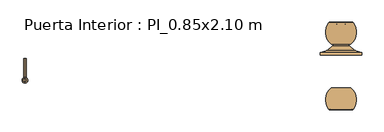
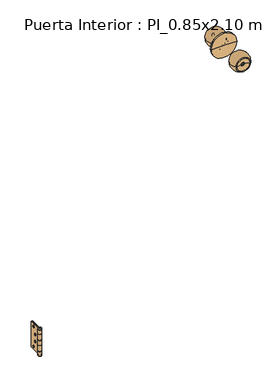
"""IFC4 building model written with IfcOpenShell, lengths in millimetres: door geometry, Puerta Interior : PI_0.85x2.10 m."""

from ifc_helpers import new_model, si_unit, point, frame, origin, place, context, project, spatial, polyline, circle_curve, ellipse_curve, trimmed, source, transform, mapped, element, save
from ifc_brep_helpers import plane_surface, cylinder_surface, revolved_surface, advanced_brep


def puerta_interior_pi_0_85x2_10_m_c76ccc0d(model_context):
    return source(origin(), model_context, "Body", "AdvancedBrep", [
        advanced_brep(
        [(-389.0, -7.5, 200.0349265), (-389.0, -51.5, 200.0349265), (-389.0, -51.5, 184.5349265), (-389.0, -51.0, 184.5349265), (-389.0, -51.0, 159.0349265), (-389.0, -51.5, 159.0349265), (-389.0, -51.5, 141.0349265), (-389.0, -51.0, 141.0349265), (-389.0, -51.0, 115.5349265), (-389.0, -51.5, 115.5349265), (-389.0, -51.5, 100.0349265), (-389.0, -7.5, 100.0349265), (-389.0, -17.5, 111.0349265), (-389.0, -25.5, 111.0349265), (-389.0, -28.5, 136.0349265), (-389.0, -36.5, 136.0349265), (-389.0, -17.5, 189.0349265), (-389.0, -25.5, 189.0349265), (-389.0, -28.5, 164.0349265), (-389.0, -36.5, 164.0349265), (-391.0, -7.5, 100.0349265), (-391.0, -53.027864, 100.0349265), (-391.0, -53.027864, 115.5349265), (-391.0, -51.0, 115.5349265), (-391.0, -51.0, 141.0349265), (-391.0, -53.027864, 141.0349265), (-391.0, -53.027864, 159.0349265), (-391.0, -51.0, 159.0349265), (-391.0, -51.0, 184.5349265), (-391.0, -53.027864, 184.5349265), (-391.0, -53.027864, 200.0349265), (-391.0, -7.5, 200.0349265), (-391.0, -25.5, 111.0349265), (-391.0, -17.5, 111.0349265), (-391.0, -36.5, 136.0349265), (-391.0, -28.5, 136.0349265), (-391.0, -25.5, 189.0349265), (-391.0, -17.5, 189.0349265), (-391.0, -36.5, 164.0349265), (-391.0, -28.5, 164.0349265), (-392.0, -51.0192593, 100.0349265), (-392.0, -53.027864, 100.0349265), (-392.0, -53.027864, 200.0349265), (-392.0, -51.0192593, 200.0349265), (-392.0, -51.0192593, 184.5349265), (-392.0, -53.027864, 184.5349265), (-392.0, -53.027864, 159.0349265), (-392.0, -51.0192593, 159.0349265), (-392.0, -51.0192593, 141.0349265), (-392.0, -53.027864, 141.0349265), (-392.0, -53.027864, 115.5349265), (-392.0, -51.0192593, 115.5349265)],
        [
            (0, 1),
            (1, 2),
            (2, 3),
            (3, 4),
            (4, 5),
            (5, 6),
            (6, 7),
            (7, 8),
            (8, 9),
            (9, 10),
            (10, 11),
            (11, 0),
            (12, 13, circle_curve(frame((-389.0, -21.5, 111.0349265), z_axis=(-1.0, 0.0, 0.0), x_axis=(0.0, 1.0, 0.0)), 4.0)),
            (13, 12, circle_curve(frame((-389.0, -21.5, 111.0349265), z_axis=(-1.0, 0.0, 0.0), x_axis=(0.0, 1.0, 0.0)), 4.0)),
            (14, 15, circle_curve(frame((-389.0, -32.5, 136.0349265), z_axis=(-1.0, 0.0, 0.0), x_axis=(0.0, 1.0, 0.0)), 4.0)),
            (15, 14, circle_curve(frame((-389.0, -32.5, 136.0349265), z_axis=(-1.0, 0.0, 0.0), x_axis=(0.0, 1.0, 0.0)), 4.0)),
            (16, 17, circle_curve(frame((-389.0, -21.5, 189.0349265), z_axis=(-1.0, 0.0, 0.0), x_axis=(0.0, 1.0, 0.0)), 4.0)),
            (17, 16, circle_curve(frame((-389.0, -21.5, 189.0349265), z_axis=(-1.0, 0.0, 0.0), x_axis=(0.0, 1.0, 0.0)), 4.0)),
            (18, 19, circle_curve(frame((-389.0, -32.5, 164.0349265), z_axis=(-1.0, 0.0, 0.0), x_axis=(0.0, 1.0, 0.0)), 4.0)),
            (19, 18, circle_curve(frame((-389.0, -32.5, 164.0349265), z_axis=(-1.0, 0.0, 0.0), x_axis=(0.0, 1.0, 0.0)), 4.0)),
            (20, 21),
            (21, 22),
            (22, 23),
            (23, 24),
            (24, 25),
            (25, 26),
            (26, 27),
            (27, 28),
            (28, 29),
            (29, 30),
            (30, 31),
            (31, 20),
            (32, 33, circle_curve(frame((-391.0, -21.5, 111.0349265), z_axis=(1.0, 0.0, 0.0), x_axis=(0.0, 1.0, 0.0)), 4.0)),
            (33, 32, circle_curve(frame((-391.0, -21.5, 111.0349265), z_axis=(1.0, 0.0, 0.0), x_axis=(0.0, 1.0, 0.0)), 4.0)),
            (34, 35, circle_curve(frame((-391.0, -32.5, 136.0349265), z_axis=(1.0, 0.0, 0.0), x_axis=(0.0, 1.0, 0.0)), 4.0)),
            (35, 34, circle_curve(frame((-391.0, -32.5, 136.0349265), z_axis=(1.0, 0.0, 0.0), x_axis=(0.0, 1.0, 0.0)), 4.0)),
            (36, 37, circle_curve(frame((-391.0, -21.5, 189.0349265), z_axis=(1.0, 0.0, 0.0), x_axis=(0.0, 1.0, 0.0)), 4.0)),
            (37, 36, circle_curve(frame((-391.0, -21.5, 189.0349265), z_axis=(1.0, 0.0, 0.0), x_axis=(0.0, 1.0, 0.0)), 4.0)),
            (38, 39, circle_curve(frame((-391.0, -32.5, 164.0349265), z_axis=(1.0, 0.0, 0.0), x_axis=(0.0, 1.0, 0.0)), 4.0)),
            (39, 38, circle_curve(frame((-391.0, -32.5, 164.0349265), z_axis=(1.0, 0.0, 0.0), x_axis=(0.0, 1.0, 0.0)), 4.0)),
            (10, 40, circle_curve(frame((-391.5, -57.5, 100.0349265), z_axis=(0.0, 0.0, -1.0), x_axis=(0.0, -1.0, 0.0)), 6.5)),
            (40, 41),
            (41, 21, circle_curve(frame((-391.5, -57.5, 100.0349265), z_axis=(0.0, 0.0, 1.0), x_axis=(0.0, -1.0, 0.0)), 4.5)),
            (20, 11),
            (31, 0),
            (30, 42, circle_curve(frame((-391.5, -57.5, 200.0349265), z_axis=(0.0, 0.0, -1.0), x_axis=(0.0, -1.0, 0.0)), 4.5)),
            (42, 43),
            (43, 1, circle_curve(frame((-391.5, -57.5, 200.0349265), z_axis=(0.0, 0.0, 1.0), x_axis=(0.0, -1.0, 0.0)), 6.5)),
            (27, 4),
            (3, 28),
            (23, 8),
            (7, 24),
            (2, 44, circle_curve(frame((-391.5, -57.5, 184.5349265), z_axis=(0.0, 0.0, -1.0), x_axis=(0.0, -1.0, 0.0)), 6.5)),
            (44, 45),
            (45, 29, circle_curve(frame((-391.5, -57.5, 184.5349265), z_axis=(0.0, 0.0, 1.0), x_axis=(0.0, -1.0, 0.0)), 4.5)),
            (43, 44),
            (42, 45),
            (26, 46, circle_curve(frame((-391.5, -57.5, 159.0349265), z_axis=(0.0, 0.0, -1.0), x_axis=(0.0, -1.0, 0.0)), 4.5)),
            (46, 47),
            (47, 5, circle_curve(frame((-391.5, -57.5, 159.0349265), z_axis=(0.0, 0.0, 1.0), x_axis=(0.0, -1.0, 0.0)), 6.5)),
            (6, 48, circle_curve(frame((-391.5, -57.5, 141.0349265), z_axis=(0.0, 0.0, -1.0), x_axis=(0.0, -1.0, 0.0)), 6.5)),
            (48, 49),
            (49, 25, circle_curve(frame((-391.5, -57.5, 141.0349265), z_axis=(0.0, 0.0, 1.0), x_axis=(0.0, -1.0, 0.0)), 4.5)),
            (47, 48),
            (46, 49),
            (22, 50, circle_curve(frame((-391.5, -57.5, 115.5349265), z_axis=(0.0, 0.0, -1.0), x_axis=(0.0, -1.0, 0.0)), 4.5)),
            (50, 51),
            (51, 9, circle_curve(frame((-391.5, -57.5, 115.5349265), z_axis=(0.0, 0.0, 1.0), x_axis=(0.0, -1.0, 0.0)), 6.5)),
            (51, 40),
            (50, 41),
            (33, 12),
            (13, 32),
            (35, 14),
            (15, 34),
            (37, 16),
            (17, 36),
            (39, 18),
            (19, 38),
        ],
        [
            plane_surface(frame((-389.0, -51.0, 100.0349265), z_axis=(1.0, 0.0, 0.0), x_axis=(0.0, 0.0, 1.0))),
            plane_surface(frame((-391.0, -51.0, 100.0349265), z_axis=(-1.0, 0.0, 0.0), x_axis=(0.0, 0.0, -1.0))),
            plane_surface(frame((-389.0, -7.5, 100.0349265), z_axis=(0.0, 0.0, -1.0), x_axis=(-1.0, 0.0, 0.0))),
            plane_surface(frame((-389.0, -7.5, 200.0349265), z_axis=(0.0, 1.0, 0.0), x_axis=(-1.0, 0.0, 0.0))),
            plane_surface(frame((-389.0, -51.0, 200.0349265), z_axis=(0.0, 0.0, 1.0), x_axis=(-1.0, 0.0, 0.0))),
            plane_surface(frame((-389.0, -51.0, 100.0349265), z_axis=(0.0, -1.0, 0.0), x_axis=(-1.0, 0.0, 0.0))),
            plane_surface(frame((-391.0, -51.0, 184.5349265), z_axis=(0.0, 0.0, -1.0), x_axis=(0.0, -1.0, 0.0))),
            cylinder_surface(frame((-391.5, -57.5, 184.5349265), z_axis=(0.0, 0.0, 1.0), x_axis=(0.0, -1.0, 0.0)), 6.5),
            plane_surface(frame((-392.0, -51.0192593, 200.0349265), z_axis=(1.0, 0.0, 0.0), x_axis=(0.0, 0.0, -1.0))),
            revolved_surface(polyline([(-391.5, -62.0, 184.5349265), (-391.5, -62.0, 200.0349265)]), (-391.5, -57.5, 184.5349265), (0.0, 0.0, -1.0)),
            plane_surface(frame((-391.0, -51.0, 159.0349265), z_axis=(0.0, 0.0, 1.0), x_axis=(0.0, 1.0, 0.0))),
            plane_surface(frame((-391.0, -51.0, 141.0349265), z_axis=(0.0, 0.0, -1.0), x_axis=(0.0, -1.0, 0.0))),
            cylinder_surface(frame((-391.5, -57.5, 141.0349265), z_axis=(0.0, 0.0, 1.0), x_axis=(0.0, -1.0, 0.0)), 6.5),
            plane_surface(frame((-392.0, -51.0192593, 159.0349265), z_axis=(1.0, 0.0, 0.0), x_axis=(0.0, 0.0, -1.0))),
            revolved_surface(polyline([(-391.5, -62.0, 141.0349265), (-391.5, -62.0, 159.0349265)]), (-391.5, -57.5, 141.0349265), (0.0, 0.0, -1.0)),
            plane_surface(frame((-391.0, -51.0, 115.5349265), z_axis=(0.0, 0.0, 1.0), x_axis=(0.0, 1.0, 0.0))),
            cylinder_surface(frame((-391.5, -57.5, 100.0349265), z_axis=(0.0, 0.0, 1.0), x_axis=(0.0, -1.0, 0.0)), 6.5),
            plane_surface(frame((-392.0, -51.0192593, 115.5349265), z_axis=(1.0, 0.0, 0.0), x_axis=(0.0, 0.0, -1.0))),
            revolved_surface(polyline([(-391.5, -62.0, 100.0349265), (-391.5, -62.0, 115.5349265)]), (-391.5, -57.5, 100.0349265), (0.0, 0.0, -1.0)),
            revolved_surface(polyline([(-389.0, -17.5, 111.0349265), (-391.0, -17.5, 111.0349265)]), (-394.0, -21.5, 111.0349265), (1.0, 0.0, 0.0)),
            revolved_surface(polyline([(-389.0, -28.5, 136.0349265), (-391.0, -28.5, 136.0349265)]), (-392.0, -32.5, 136.0349265), (1.0, 0.0, 0.0)),
            revolved_surface(polyline([(-389.0, -17.5, 189.0349265), (-391.0, -17.5, 189.0349265)]), (-392.0, -21.5, 189.0349265), (1.0, 0.0, 0.0)),
            revolved_surface(polyline([(-389.0, -28.5, 164.0349265), (-391.0, -28.5, 164.0349265)]), (-392.0, -32.5, 164.0349265), (1.0, 0.0, 0.0)),
        ],
        [
            (0, [[1, 2, 3, 4, 5, 6, 7, 8, 9, 10, 11, 12], [13, 14], [15, 16], [17, 18], [19, 20]]),
            (1, [[21, 22, 23, 24, 25, 26, 27, 28, 29, 30, 31, 32], [33, 34], [35, 36], [37, 38], [39, 40]]),
            (2, [[-11, 41, 42, 43, -21, 44]]),
            (3, [[-44, -32, 45, -12]]),
            (4, [[-31, 46, 47, 48, -1, -45]]),
            (5, [[-28, 49, -4, 50]]),
            (5, [[-24, 51, -8, 52]]),
            (6, [[-29, -50, -3, 53, 54, 55]]),
            (7, [[56, -53, -2, -48]]),
            (8, [[57, -54, -56, -47]]),
            (9, [[-30, -55, -57, -46]]),
            (10, [[-5, -49, -27, 58, 59, 60]]),
            (11, [[-25, -52, -7, 61, 62, 63]]),
            (12, [[64, -61, -6, -60]]),
            (13, [[65, -62, -64, -59]]),
            (14, [[-26, -63, -65, -58]]),
            (15, [[-9, -51, -23, 66, 67, 68]]),
            (16, [[69, -41, -10, -68]]),
            (17, [[70, -42, -69, -67]]),
            (18, [[-22, -43, -70, -66]]),
            (19, [[-34, 71, -14, 72]]),
            (19, [[-13, -71, -33, -72]]),
            (20, [[-36, 73, -16, 74]]),
            (20, [[-15, -73, -35, -74]]),
            (21, [[-38, 75, -18, 76]]),
            (21, [[-17, -75, -37, -76]]),
            (22, [[-40, 77, -20, 78]]),
            (22, [[-19, -77, -39, -78]]),
        ],
    ),
        advanced_brep(
        [(-391.5, -53.0, 204.0349265), (-391.5, -53.0, 200.5349265), (-391.5, -61.9442719, 200.5349265), (-391.5, -61.9442719, 204.0349265), (-391.5, -57.472136, 204.0349265), (-391.5, -53.0, 96.0349265), (-391.5, -57.472136, 96.0349265), (-391.5, -61.9442719, 96.0349265), (-391.5, -53.0, 99.5349265), (-391.5, -61.9442719, 99.5349265)],
        [
            (0, 1, circle_curve(frame((-391.5, -53.0, 202.2849265), z_axis=(-1.0, 0.0, 0.0), x_axis=(0.0, -1.0, 0.0)), 1.75)),
            (1, 2, circle_curve(frame((-391.5, -57.472136, 200.5349265), z_axis=(0.0, 0.0, 1.0), x_axis=(0.0, -1.0, 0.0)), 4.472136)),
            (2, 3, circle_curve(frame((-391.5, -61.9442719, 202.2849265), z_axis=(-1.0, 0.0, 0.0), x_axis=(0.0, 1.0, 0.0)), 1.75)),
            (3, 0, circle_curve(frame((-391.5, -57.472136, 204.0349265), z_axis=(0.0, 0.0, -1.0), x_axis=(0.0, -1.0, 0.0)), 4.472136)),
            (2, 1, circle_curve(frame((-391.5, -57.472136, 200.5349265), z_axis=(0.0, 0.0, 1.0), x_axis=(0.0, -1.0, 0.0)), 4.472136)),
            (0, 3, circle_curve(frame((-391.5, -57.472136, 204.0349265), z_axis=(0.0, 0.0, -1.0), x_axis=(0.0, -1.0, 0.0)), 4.472136)),
            (4, 0),
            (3, 4),
            (5, 6),
            (6, 7),
            (7, 5, circle_curve(frame((-391.5, -57.472136, 96.0349265), z_axis=(0.0, 0.0, -1.0), x_axis=(0.0, -1.0, 0.0)), 4.472136)),
            (5, 7, circle_curve(frame((-391.5, -57.472136, 96.0349265), z_axis=(0.0, 0.0, -1.0), x_axis=(0.0, -1.0, 0.0)), 4.472136)),
            (8, 5, circle_curve(frame((-391.5, -53.0, 97.7849265), z_axis=(-1.0, 0.0, 0.0), x_axis=(0.0, -1.0, 0.0)), 1.75)),
            (7, 9, circle_curve(frame((-391.5, -61.9442719, 97.7849265), z_axis=(-1.0, 0.0, 0.0), x_axis=(0.0, 1.0, 0.0)), 1.75)),
            (9, 8, circle_curve(frame((-391.5, -57.472136, 99.5349265), z_axis=(0.0, 0.0, -1.0), x_axis=(0.0, -1.0, 0.0)), 4.472136)),
            (8, 9, circle_curve(frame((-391.5, -57.472136, 99.5349265), z_axis=(0.0, 0.0, -1.0), x_axis=(0.0, -1.0, 0.0)), 4.472136)),
            (1, 8),
            (9, 2),
        ],
        [
            revolved_surface(trimmed(ellipse_curve(frame((-391.5, -61.9442719, 202.2849265), z_axis=(-1.0, 0.0, 0.0), x_axis=(0.0, 1.0, 0.0)), 1.75, 1.75), [point((-391.5, -61.9442719, 200.5349265))], [point((-391.5, -61.9442719, 204.0349265))], True, "CARTESIAN"), (-391.5, -57.472136, 204.0349265), (0.0, 0.0, 1.0)),
            plane_surface(frame((-391.5, -57.472136, 204.0349265), z_axis=(0.0, 0.0, 1.0), x_axis=(0.0, -1.0, 0.0))),
            plane_surface(frame((-391.5, -57.472136, 96.0349265), z_axis=(0.0, 0.0, -1.0), x_axis=(0.0, -1.0, 0.0))),
            revolved_surface(trimmed(ellipse_curve(frame((-391.5, -61.9442719, 97.7849265), z_axis=(-1.0, 0.0, 0.0), x_axis=(0.0, 1.0, 0.0)), 1.75, 1.75), [point((-391.5, -61.9442719, 96.0349265))], [point((-391.5, -61.9442719, 99.5349265))], True, "CARTESIAN"), (-391.5, -57.472136, 204.0349265), (0.0, 0.0, 1.0)),
            cylinder_surface(frame((-391.5, -57.472136, 204.0349265), z_axis=(0.0, 0.0, 1.0), x_axis=(0.0, -1.0, 0.0)), 4.472136),
        ],
        [
            (0, [[1, 2, 3, 4]]),
            (0, [[-3, 5, -1, 6]]),
            (1, [[7, -4, 8]]),
            (1, [[-8, -6, -7]]),
            (2, [[9, 10, 11]]),
            (2, [[-10, -9, 12]]),
            (3, [[13, -11, 14, 15]]),
            (3, [[-14, -12, -13, 16]]),
            (4, [[17, -15, 18, -2]]),
            (4, [[-18, -16, -17, -5]]),
        ],
    ),
        advanced_brep(
        [(-392.0, -51.0, 200.0349265), (-392.0, -51.0, 183.5349265), (-392.0, -53.027864, 183.5349265), (-392.0, -53.027864, 160.0349265), (-392.0, -51.0, 160.0349265), (-392.0, -51.0, 140.0349265), (-392.0, -53.027864, 140.0349265), (-392.0, -53.027864, 116.5349265), (-392.0, -51.0, 116.5349265), (-392.0, -51.0, 100.0349265), (-392.0, -7.5, 100.0349265), (-392.0, -7.5, 200.0349265), (-392.0, -17.5, 111.0349265), (-392.0, -25.5, 111.0349265), (-392.0, -28.5, 136.0349265), (-392.0, -36.5, 136.0349265), (-392.0, -17.5, 189.0349265), (-392.0, -25.5, 189.0349265), (-392.0, -28.5, 164.0349265), (-392.0, -36.5, 164.0349265), (-394.0, -51.0, 100.0349265), (-394.0, -51.0, 116.5349265), (-394.0, -51.5, 116.5349265), (-394.0, -51.5, 140.0349265), (-394.0, -51.0, 140.0349265), (-394.0, -51.0, 160.0349265), (-394.0, -51.5, 160.0349265), (-394.0, -51.5, 183.5349265), (-394.0, -51.0, 183.5349265), (-394.0, -51.0, 200.0349265), (-394.0, -7.5, 200.0349265), (-394.0, -7.5, 100.0349265), (-394.0, -25.5, 111.0349265), (-394.0, -17.5, 111.0349265), (-394.0, -36.5, 136.0349265), (-394.0, -28.5, 136.0349265), (-394.0, -25.5, 189.0349265), (-394.0, -17.5, 189.0349265), (-394.0, -36.5, 164.0349265), (-394.0, -28.5, 164.0349265), (-391.0, -51.0192593, 183.5349265), (-391.0, -53.027864, 183.5349265), (-391.0, -53.027864, 160.0349265), (-391.0, -51.0192593, 160.0349265), (-391.0, -51.0192593, 140.0349265), (-391.0, -53.027864, 140.0349265), (-391.0, -53.027864, 116.5349265), (-391.0, -51.0192593, 116.5349265)],
        [
            (0, 1),
            (1, 2),
            (2, 3),
            (3, 4),
            (4, 5),
            (5, 6),
            (6, 7),
            (7, 8),
            (8, 9),
            (9, 10),
            (10, 11),
            (11, 0),
            (12, 13, circle_curve(frame((-392.0, -21.5, 111.0349265), z_axis=(-1.0, 0.0, 0.0), x_axis=(0.0, 1.0, 0.0)), 4.0)),
            (13, 12, circle_curve(frame((-392.0, -21.5, 111.0349265), z_axis=(-1.0, 0.0, 0.0), x_axis=(0.0, 1.0, 0.0)), 4.0)),
            (14, 15, circle_curve(frame((-392.0, -32.5, 136.0349265), z_axis=(-1.0, 0.0, 0.0), x_axis=(0.0, 1.0, 0.0)), 4.0)),
            (15, 14, circle_curve(frame((-392.0, -32.5, 136.0349265), z_axis=(-1.0, 0.0, 0.0), x_axis=(0.0, 1.0, 0.0)), 4.0)),
            (16, 17, circle_curve(frame((-392.0, -21.5, 189.0349265), z_axis=(-1.0, 0.0, 0.0), x_axis=(0.0, 1.0, 0.0)), 4.0)),
            (17, 16, circle_curve(frame((-392.0, -21.5, 189.0349265), z_axis=(-1.0, 0.0, 0.0), x_axis=(0.0, 1.0, 0.0)), 4.0)),
            (18, 19, circle_curve(frame((-392.0, -32.5, 164.0349265), z_axis=(-1.0, 0.0, 0.0), x_axis=(0.0, 1.0, 0.0)), 4.0)),
            (19, 18, circle_curve(frame((-392.0, -32.5, 164.0349265), z_axis=(-1.0, 0.0, 0.0), x_axis=(0.0, 1.0, 0.0)), 4.0)),
            (20, 21),
            (21, 22),
            (22, 23),
            (23, 24),
            (24, 25),
            (25, 26),
            (26, 27),
            (27, 28),
            (28, 29),
            (29, 30),
            (30, 31),
            (31, 20),
            (32, 33, circle_curve(frame((-394.0, -21.5, 111.0349265), z_axis=(1.0, 0.0, 0.0), x_axis=(0.0, 1.0, 0.0)), 4.0)),
            (33, 32, circle_curve(frame((-394.0, -21.5, 111.0349265), z_axis=(1.0, 0.0, 0.0), x_axis=(0.0, 1.0, 0.0)), 4.0)),
            (34, 35, circle_curve(frame((-394.0, -32.5, 136.0349265), z_axis=(1.0, 0.0, 0.0), x_axis=(0.0, 1.0, 0.0)), 4.0)),
            (35, 34, circle_curve(frame((-394.0, -32.5, 136.0349265), z_axis=(1.0, 0.0, 0.0), x_axis=(0.0, 1.0, 0.0)), 4.0)),
            (36, 37, circle_curve(frame((-394.0, -21.5, 189.0349265), z_axis=(1.0, 0.0, 0.0), x_axis=(0.0, 1.0, 0.0)), 4.0)),
            (37, 36, circle_curve(frame((-394.0, -21.5, 189.0349265), z_axis=(1.0, 0.0, 0.0), x_axis=(0.0, 1.0, 0.0)), 4.0)),
            (38, 39, circle_curve(frame((-394.0, -32.5, 164.0349265), z_axis=(1.0, 0.0, 0.0), x_axis=(0.0, 1.0, 0.0)), 4.0)),
            (39, 38, circle_curve(frame((-394.0, -32.5, 164.0349265), z_axis=(1.0, 0.0, 0.0), x_axis=(0.0, 1.0, 0.0)), 4.0)),
            (9, 20),
            (31, 10),
            (30, 11),
            (29, 0),
            (8, 21),
            (28, 1),
            (24, 5),
            (4, 25),
            (27, 40, circle_curve(frame((-391.5, -57.5, 183.5349265), z_axis=(0.0, 0.0, 1.0), x_axis=(0.0, -1.0, 0.0)), 6.5)),
            (40, 41),
            (41, 2, circle_curve(frame((-391.5, -57.5, 183.5349265), z_axis=(0.0, 0.0, -1.0), x_axis=(0.0, -1.0, 0.0)), 4.5)),
            (3, 42, circle_curve(frame((-391.5, -57.5, 160.0349265), z_axis=(0.0, 0.0, 1.0), x_axis=(0.0, -1.0, 0.0)), 4.5)),
            (42, 43),
            (43, 26, circle_curve(frame((-391.5, -57.5, 160.0349265), z_axis=(0.0, 0.0, -1.0), x_axis=(0.0, -1.0, 0.0)), 6.5)),
            (43, 40),
            (42, 41),
            (23, 44, circle_curve(frame((-391.5, -57.5, 140.0349265), z_axis=(0.0, 0.0, 1.0), x_axis=(0.0, -1.0, 0.0)), 6.5)),
            (44, 45),
            (45, 6, circle_curve(frame((-391.5, -57.5, 140.0349265), z_axis=(0.0, 0.0, -1.0), x_axis=(0.0, -1.0, 0.0)), 4.5)),
            (7, 46, circle_curve(frame((-391.5, -57.5, 116.5349265), z_axis=(0.0, 0.0, 1.0), x_axis=(0.0, -1.0, 0.0)), 4.5)),
            (46, 47),
            (47, 22, circle_curve(frame((-391.5, -57.5, 116.5349265), z_axis=(0.0, 0.0, -1.0), x_axis=(0.0, -1.0, 0.0)), 6.5)),
            (47, 44),
            (46, 45),
            (33, 12),
            (13, 32),
            (35, 14),
            (15, 34),
            (37, 16),
            (17, 36),
            (39, 18),
            (19, 38),
        ],
        [
            plane_surface(frame((-392.0, -51.0, 100.0349265), z_axis=(1.0, 0.0, 0.0), x_axis=(0.0, 0.0, 1.0))),
            plane_surface(frame((-394.0, -51.0, 100.0349265), z_axis=(-1.0, 0.0, 0.0), x_axis=(0.0, 0.0, -1.0))),
            plane_surface(frame((-392.0, -7.5, 100.0349265), z_axis=(0.0, 0.0, -1.0), x_axis=(-1.0, 0.0, 0.0))),
            plane_surface(frame((-392.0, -7.5, 200.0349265), z_axis=(0.0, 1.0, 0.0), x_axis=(-1.0, 0.0, 0.0))),
            plane_surface(frame((-392.0, -51.0, 200.0349265), z_axis=(0.0, 0.0, 1.0), x_axis=(-1.0, 0.0, 0.0))),
            plane_surface(frame((-392.0, -51.0, 100.0349265), z_axis=(0.0, -1.0, 0.0), x_axis=(-1.0, 0.0, 0.0))),
            plane_surface(frame((-391.5, -62.0, 183.5349265), z_axis=(0.0, 0.0, 1.0), x_axis=(1.0, 0.0, 0.0))),
            plane_surface(frame((-391.5, -62.0, 160.0349265), z_axis=(0.0, 0.0, -1.0), x_axis=(-1.0, 0.0, 0.0))),
            cylinder_surface(frame((-391.5, -57.5, 160.0349265), z_axis=(0.0, 0.0, 1.0), x_axis=(0.0, -1.0, 0.0)), 6.5),
            plane_surface(frame((-391.0, -53.027864, 183.5349265), z_axis=(-1.0, 0.0, 0.0), x_axis=(0.0, 0.0, -1.0))),
            revolved_surface(polyline([(-391.5, -62.0, 160.0349265), (-391.5, -62.0, 183.5349265)]), (-391.5, -57.5, 160.0349265), (0.0, 0.0, -1.0)),
            plane_surface(frame((-391.5, -62.0, 140.0349265), z_axis=(0.0, 0.0, 1.0), x_axis=(1.0, 0.0, 0.0))),
            plane_surface(frame((-391.5, -62.0, 116.5349265), z_axis=(0.0, 0.0, -1.0), x_axis=(-1.0, 0.0, 0.0))),
            cylinder_surface(frame((-391.5, -57.5, 116.5349265), z_axis=(0.0, 0.0, 1.0), x_axis=(0.0, -1.0, 0.0)), 6.5),
            plane_surface(frame((-391.0, -53.027864, 140.0349265), z_axis=(-1.0, 0.0, 0.0), x_axis=(0.0, 0.0, -1.0))),
            revolved_surface(polyline([(-391.5, -62.0, 116.5349265), (-391.5, -62.0, 140.0349265)]), (-391.5, -57.5, 116.5349265), (0.0, 0.0, -1.0)),
            revolved_surface(polyline([(-392.0, -17.5, 111.0349265), (-394.0, -17.5, 111.0349265)]), (-394.0, -21.5, 111.0349265), (1.0, 0.0, 0.0)),
            revolved_surface(polyline([(-392.0, -28.5, 136.0349265), (-394.0, -28.5, 136.0349265)]), (-392.0, -32.5, 136.0349265), (1.0, 0.0, 0.0)),
            revolved_surface(polyline([(-392.0, -17.5, 189.0349265), (-394.0, -17.5, 189.0349265)]), (-392.0, -21.5, 189.0349265), (1.0, 0.0, 0.0)),
            revolved_surface(polyline([(-392.0, -28.5, 164.0349265), (-394.0, -28.5, 164.0349265)]), (-392.0, -32.5, 164.0349265), (1.0, 0.0, 0.0)),
        ],
        [
            (0, [[1, 2, 3, 4, 5, 6, 7, 8, 9, 10, 11, 12], [13, 14], [15, 16], [17, 18], [19, 20]]),
            (1, [[21, 22, 23, 24, 25, 26, 27, 28, 29, 30, 31, 32], [33, 34], [35, 36], [37, 38], [39, 40]]),
            (2, [[41, -32, 42, -10]]),
            (3, [[-42, -31, 43, -11]]),
            (4, [[-43, -30, 44, -12]]),
            (5, [[-9, 45, -21, -41]]),
            (5, [[-29, 46, -1, -44]]),
            (5, [[-25, 47, -5, 48]]),
            (6, [[-2, -46, -28, 49, 50, 51]]),
            (7, [[-26, -48, -4, 52, 53, 54]]),
            (8, [[-27, -54, 55, -49]]),
            (9, [[-55, -53, 56, -50]]),
            (10, [[-56, -52, -3, -51]]),
            (11, [[-6, -47, -24, 57, 58, 59]]),
            (12, [[-22, -45, -8, 60, 61, 62]]),
            (13, [[-23, -62, 63, -57]]),
            (14, [[-63, -61, 64, -58]]),
            (15, [[-64, -60, -7, -59]]),
            (16, [[-34, 65, -14, 66]]),
            (16, [[-13, -65, -33, -66]]),
            (17, [[-36, 67, -16, 68]]),
            (17, [[-15, -67, -35, -68]]),
            (18, [[-38, 69, -18, 70]]),
            (18, [[-17, -69, -37, -70]]),
            (19, [[-40, 71, -20, 72]]),
            (19, [[-19, -71, -39, -72]]),
        ],
    ),
        advanced_brep(
        [(348.5312643, 74.946362, 1025.0174632), (331.48125, 70.0573491, 1025.0174632), (319.08125, 70.0573491, 1025.0174632), (302.0312357, 74.946362, 1025.0174632), (331.48125, 66.5726145, 1025.0174632), (319.08125, 66.5726145, 1025.0174632), (325.28125, 66.5726145, 1025.0174632), (302.840796, 25.0, 1025.0174632), (324.28125, 25.0, 1025.0174632), (325.28125, 25.0, 1025.0174632), (325.28125, 25.0, 1029.2407976), (326.28125, 25.0, 1029.2407976), (326.28125, 25.0, 1025.0174632), (347.721704, 25.0, 1025.0174632), (326.28125, 25.0, 1020.937297), (324.28125, 25.0, 1020.937297), (324.28125, 25.0, 1022.5683489), (325.28125, 25.0, 1022.5683489), (325.28125, 25.0, 1023.7959278), (324.28125, 25.0, 1023.7959278), (352.7045262, 73.6071088, 1025.0174632), (297.8579738, 73.6071088, 1025.0174632), (326.28125, 33.4273855, 1020.937297), (326.28125, 33.4273855, 1029.2407976), (325.28125, 33.4273855, 1029.2407976), (325.28125, 33.4273855, 1025.0174632), (324.28125, 33.4273855, 1025.0174632), (324.28125, 33.4273855, 1023.7959278), (325.28125, 33.4273855, 1023.7959278), (325.28125, 33.4273855, 1022.5683489), (324.28125, 33.4273855, 1022.5683489), (324.28125, 33.4273855, 1020.937297)],
        [
            (0, 1),
            (1, 2, circle_curve(frame((325.28125, 70.0573491, 1025.0174632), z_axis=(0.0, -1.0, 0.0), x_axis=(-1.0, 0.0, 0.0)), 6.2)),
            (2, 3),
            (3, 0, circle_curve(frame((325.28125, 74.946362, 1025.0174632), z_axis=(0.0, 1.0, 0.0), x_axis=(-1.0, 0.0, 0.0)), 23.2500143)),
            (2, 1, circle_curve(frame((325.28125, 70.0573491, 1025.0174632), z_axis=(0.0, -1.0, 0.0), x_axis=(-1.0, 0.0, 0.0)), 6.2)),
            (0, 3, circle_curve(frame((325.28125, 74.946362, 1025.0174632), z_axis=(0.0, 1.0, 0.0), x_axis=(-1.0, 0.0, 0.0)), 23.2500143)),
            (1, 4),
            (4, 5, circle_curve(frame((325.28125, 66.5726145, 1025.0174632), z_axis=(0.0, -1.0, 0.0), x_axis=(-1.0, 0.0, 0.0)), 6.2)),
            (5, 2),
            (5, 4, circle_curve(frame((325.28125, 66.5726145, 1025.0174632), z_axis=(0.0, -1.0, 0.0), x_axis=(-1.0, 0.0, 0.0)), 6.2)),
            (4, 6),
            (6, 5),
            (7, 8),
            (8, 9),
            (9, 10),
            (10, 11),
            (11, 12),
            (12, 13),
            (13, 7, circle_curve(frame((325.28125, 25.0, 1025.0174632), z_axis=(0.0, -1.0, 0.0), x_axis=(-1.0, 0.0, 0.0)), 22.440454)),
            (12, 14),
            (14, 15),
            (15, 16),
            (16, 17),
            (17, 18),
            (18, 19),
            (19, 8),
            (7, 13, circle_curve(frame((325.28125, 25.0, 1025.0174632), z_axis=(0.0, -1.0, 0.0), x_axis=(-1.0, 0.0, 0.0)), 22.440454)),
            (13, 20, circle_curve(frame((325.28125, 51.859375, 1025.0174632), z_axis=(0.0, 0.0, 1.0), x_axis=(-1.0, 0.0, 0.0)), 35.0)),
            (20, 21, circle_curve(frame((325.28125, 73.6071088, 1025.0174632), z_axis=(0.0, -1.0, 0.0), x_axis=(-1.0, 0.0, 0.0)), 27.4232762)),
            (21, 7, circle_curve(frame((325.28125, 51.859375, 1025.0174632), z_axis=(0.0, 0.0, 1.0), x_axis=(1.0, 0.0, 0.0)), 35.0)),
            (21, 20, circle_curve(frame((325.28125, 73.6071088, 1025.0174632), z_axis=(0.0, -1.0, 0.0), x_axis=(-1.0, 0.0, 0.0)), 27.4232762)),
            (3, 21, circle_curve(frame((300.9451794, 71.1588336, 1025.0174632), z_axis=(0.0, 0.0, 1.0), x_axis=(1.0, 0.0, 0.0)), 3.9401636)),
            (20, 0, circle_curve(frame((349.6173206, 71.1588336, 1025.0174632), z_axis=(0.0, 0.0, 1.0), x_axis=(-1.0, 0.0, 0.0)), 3.9401636)),
            (22, 23),
            (23, 24),
            (24, 25),
            (25, 26),
            (26, 27),
            (27, 28),
            (28, 29),
            (29, 30),
            (30, 31),
            (31, 22),
            (31, 15),
            (14, 22),
            (30, 16),
            (29, 17),
            (28, 18),
            (27, 19),
            (26, 8),
            (25, 9),
            (24, 10),
            (23, 11),
        ],
        [
            revolved_surface(polyline([(319.08125, 70.0573491, 1025.0174632), (302.0312357, 74.946362, 1025.0174632)]), (325.28125, 27.0, 1025.0174632), (0.0, -1.0, 0.0)),
            revolved_surface(polyline([(319.08125, 66.5726145, 1025.0174632), (319.08125, 70.0573491, 1025.0174632)]), (325.28125, 27.0, 1025.0174632), (0.0, -1.0, 0.0)),
            plane_surface(frame((325.28125, 66.5726145, 1025.0174632), z_axis=(0.0, 1.0, 0.0), x_axis=(-1.0, 0.0, 0.0))),
            plane_surface(frame((325.28125, 25.0, 1025.0174632), z_axis=(0.0, -1.0, 0.0), x_axis=(-1.0, 0.0, 0.0))),
            revolved_surface(trimmed(ellipse_curve(frame((325.28125, 51.859375, 1025.0174632), z_axis=(0.0, 0.0, 1.0), x_axis=(1.0, 0.0, 0.0)), 35.0, 35.0), [point((297.8579738, 73.6071088, 1025.0174632))], [point((302.840796, 25.0, 1025.0174632))], True, "CARTESIAN"), (325.28125, 27.0, 1025.0174632), (0.0, -1.0, 0.0)),
            revolved_surface(trimmed(ellipse_curve(frame((300.9451794, 71.1588336, 1025.0174632), z_axis=(0.0, 0.0, 1.0), x_axis=(1.0, 0.0, 0.0)), 3.9401636, 3.9401636), [point((302.0312357, 74.946362, 1025.0174632))], [point((297.8579738, 73.6071088, 1025.0174632))], True, "CARTESIAN"), (325.28125, 27.0, 1025.0174632), (0.0, -1.0, 0.0)),
            plane_surface(frame((324.28125, 33.4273855, 1020.937297), z_axis=(0.0, -1.0, 0.0), x_axis=(1.0, 0.0, 0.0))),
            plane_surface(frame((326.28125, 18.8970167, 1020.937297), z_axis=(0.0, 0.0, 1.0), x_axis=(0.0, 1.0, 0.0))),
            plane_surface(frame((324.28125, 18.8970167, 1020.937297), z_axis=(1.0, 0.0, 0.0), x_axis=(0.0, 1.0, 0.0))),
            plane_surface(frame((324.28125, 18.8970167, 1022.5683489), z_axis=(0.0, 0.0, -1.0), x_axis=(0.0, 1.0, 0.0))),
            plane_surface(frame((325.28125, 18.8970167, 1022.5683489), z_axis=(1.0, 0.0, 0.0), x_axis=(0.0, 1.0, 0.0))),
            plane_surface(frame((325.28125, 18.8970167, 1023.7959278), z_axis=(0.0, 0.0, 1.0), x_axis=(0.0, 1.0, 0.0))),
            plane_surface(frame((324.28125, 18.8970167, 1023.7959278), z_axis=(1.0, 0.0, 0.0), x_axis=(0.0, 1.0, 0.0))),
            plane_surface(frame((324.28125, 18.8970167, 1025.0174632), z_axis=(0.0, 0.0, -1.0), x_axis=(0.0, 1.0, 0.0))),
            plane_surface(frame((325.28125, 18.8970167, 1025.0174632), z_axis=(1.0, 0.0, 0.0), x_axis=(0.0, 1.0, 0.0))),
            plane_surface(frame((325.28125, 18.8970167, 1029.2407976), z_axis=(0.0, 0.0, -1.0), x_axis=(0.0, 1.0, 0.0))),
            plane_surface(frame((326.28125, 18.8970167, 1029.2407976), z_axis=(-1.0, 0.0, 0.0), x_axis=(0.0, 1.0, 0.0))),
        ],
        [
            (0, [[1, 2, 3, 4]]),
            (0, [[5, -1, 6, -3]]),
            (1, [[7, 8, 9, -2]]),
            (1, [[-9, 10, -7, -5]]),
            (2, [[11, 12, -8]]),
            (2, [[-12, -11, -10]]),
            (3, [[13, 14, 15, 16, 17, 18, 19]]),
            (3, [[-18, 20, 21, 22, 23, 24, 25, 26, -13, 27]]),
            (4, [[28, 29, 30, -19]]),
            (4, [[-30, 31, -28, -27]]),
            (5, [[32, -29, 33, -4]]),
            (5, [[-33, -31, -32, -6]]),
            (6, [[34, 35, 36, 37, 38, 39, 40, 41, 42, 43]]),
            (7, [[44, -21, 45, -43]]),
            (8, [[46, -22, -44, -42]]),
            (9, [[47, -23, -46, -41]]),
            (10, [[48, -24, -47, -40]]),
            (11, [[49, -25, -48, -39]]),
            (12, [[50, -26, -49, -38]]),
            (13, [[51, -14, -50, -37]]),
            (14, [[52, -15, -51, -36]]),
            (15, [[53, -16, -52, -35]]),
            (16, [[-45, -20, -17, -53, -34]]),
        ],
    ),
        advanced_brep(
        [(307.78125, 5.0, 1025.0174632), (342.78125, 5.0, 1025.0174632), (307.78125, 25.0, 1025.0174632), (342.78125, 25.0, 1025.0174632), (326.28125, 25.0, 1020.937297), (326.28125, 25.0, 1029.2407976), (325.28125, 25.0, 1029.2407976), (325.28125, 25.0, 1025.0174632), (324.28125, 25.0, 1025.0174632), (324.28125, 25.0, 1023.7959278), (325.28125, 25.0, 1023.7959278), (325.28125, 25.0, 1022.5683489), (324.28125, 25.0, 1022.5683489), (324.28125, 25.0, 1020.937297), (326.28125, 18.8970167, 1020.937297), (324.28125, 18.8970167, 1020.937297), (324.28125, 18.8970167, 1022.5683489), (325.28125, 18.8970167, 1022.5683489), (325.28125, 18.8970167, 1023.7959278), (324.28125, 18.8970167, 1023.7959278), (324.28125, 18.8970167, 1025.0174632), (325.28125, 18.8970167, 1025.0174632), (325.28125, 18.8970167, 1029.2407976), (326.28125, 18.8970167, 1029.2407976)],
        [
            (0, 1, circle_curve(frame((325.28125, 5.0, 1025.0174632), z_axis=(0.0, -1.0, 0.0), x_axis=(1.0, 0.0, 0.0)), 17.5)),
            (1, 0, circle_curve(frame((325.28125, 5.0, 1025.0174632), z_axis=(0.0, -1.0, 0.0), x_axis=(1.0, 0.0, 0.0)), 17.5)),
            (2, 3, circle_curve(frame((325.28125, 25.0, 1025.0174632), z_axis=(0.0, 1.0, 0.0), x_axis=(1.0, 0.0, 0.0)), 17.5)),
            (3, 2, circle_curve(frame((325.28125, 25.0, 1025.0174632), z_axis=(0.0, 1.0, 0.0), x_axis=(1.0, 0.0, 0.0)), 17.5)),
            (4, 5),
            (5, 6),
            (6, 7),
            (7, 8),
            (8, 9),
            (9, 10),
            (10, 11),
            (11, 12),
            (12, 13),
            (13, 4),
            (1, 3),
            (2, 0),
            (14, 15),
            (15, 16),
            (16, 17),
            (17, 18),
            (18, 19),
            (19, 20),
            (20, 21),
            (21, 22),
            (22, 23),
            (23, 14),
            (14, 4),
            (13, 15),
            (12, 16),
            (11, 17),
            (10, 18),
            (9, 19),
            (8, 20),
            (7, 21),
            (6, 22),
            (5, 23),
        ],
        [
            plane_surface(frame((342.78125, 5.0, 1025.0174632), z_axis=(0.0, -1.0, 0.0), x_axis=(0.0, 0.0, -1.0))),
            plane_surface(frame((342.78125, 25.0, 1025.0174632), z_axis=(0.0, 1.0, 0.0), x_axis=(0.0, 0.0, 1.0))),
            cylinder_surface(frame((325.28125, 25.0, 1025.0174632), z_axis=(0.0, -1.0, 0.0), x_axis=(1.0, 0.0, 0.0)), 17.5),
            plane_surface(frame((324.28125, 18.8970167, 1020.937297), z_axis=(0.0, 1.0, 0.0), x_axis=(-1.0, 0.0, 0.0))),
            plane_surface(frame((326.28125, 18.8970167, 1020.937297), z_axis=(0.0, 0.0, 1.0), x_axis=(0.0, 1.0, 0.0))),
            plane_surface(frame((324.28125, 18.8970167, 1020.937297), z_axis=(1.0, 0.0, 0.0), x_axis=(0.0, 1.0, 0.0))),
            plane_surface(frame((324.28125, 18.8970167, 1022.5683489), z_axis=(0.0, 0.0, -1.0), x_axis=(0.0, 1.0, 0.0))),
            plane_surface(frame((325.28125, 18.8970167, 1022.5683489), z_axis=(1.0, 0.0, 0.0), x_axis=(0.0, 1.0, 0.0))),
            plane_surface(frame((325.28125, 18.8970167, 1023.7959278), z_axis=(0.0, 0.0, 1.0), x_axis=(0.0, 1.0, 0.0))),
            plane_surface(frame((324.28125, 18.8970167, 1023.7959278), z_axis=(1.0, 0.0, 0.0), x_axis=(0.0, 1.0, 0.0))),
            plane_surface(frame((324.28125, 18.8970167, 1025.0174632), z_axis=(0.0, 0.0, -1.0), x_axis=(0.0, 1.0, 0.0))),
            plane_surface(frame((325.28125, 18.8970167, 1025.0174632), z_axis=(1.0, 0.0, 0.0), x_axis=(0.0, 1.0, 0.0))),
            plane_surface(frame((325.28125, 18.8970167, 1029.2407976), z_axis=(0.0, 0.0, -1.0), x_axis=(0.0, 1.0, 0.0))),
            plane_surface(frame((326.28125, 18.8970167, 1029.2407976), z_axis=(-1.0, 0.0, 0.0), x_axis=(0.0, 1.0, 0.0))),
        ],
        [
            (0, [[1, 2]]),
            (1, [[3, 4], [5, 6, 7, 8, 9, 10, 11, 12, 13, 14]]),
            (2, [[15, -3, 16, -2]]),
            (2, [[-16, -4, -15, -1]]),
            (3, [[17, 18, 19, 20, 21, 22, 23, 24, 25, 26]]),
            (4, [[27, -14, 28, -17]]),
            (5, [[-28, -13, 29, -18]]),
            (6, [[-29, -12, 30, -19]]),
            (7, [[-30, -11, 31, -20]]),
            (8, [[-31, -10, 32, -21]]),
            (9, [[-32, -9, 33, -22]]),
            (10, [[-33, -8, 34, -23]]),
            (11, [[-34, -7, 35, -24]]),
            (12, [[-35, -6, 36, -25]]),
            (13, [[-36, -5, -27, -26]]),
        ],
    ),
        advanced_brep(
        [(331.203125, -120.0573491, 1025.0174632), (331.203125, -116.5726145, 1025.0174632), (319.359375, -116.5726145, 1025.0174632), (319.359375, -120.0573491, 1025.0174632), (320.359375, -120.0573491, 1025.0174632), (330.203125, -120.0573491, 1025.0174632), (324.28125, -120.0573491, 1025.0174632), (325.28125, -120.0573491, 1025.0174632), (325.28125, -120.0573491, 1029.2407976), (326.28125, -120.0573491, 1029.2407976), (326.28125, -120.0573491, 1025.0174632), (326.28125, -120.0573491, 1020.937297), (324.28125, -120.0573491, 1020.937297), (324.28125, -120.0573491, 1022.5683489), (325.28125, -120.0573491, 1022.5683489), (325.28125, -120.0573491, 1023.7959278), (324.28125, -120.0573491, 1023.7959278), (326.28125, -116.5726145, 1025.0174632), (326.28125, -116.5726145, 1029.2407976), (325.28125, -116.5726145, 1029.2407976), (325.28125, -116.5726145, 1025.0174632), (324.28125, -116.5726145, 1025.0174632), (324.28125, -116.5726145, 1023.7959278), (325.28125, -116.5726145, 1023.7959278), (325.28125, -116.5726145, 1022.5683489), (324.28125, -116.5726145, 1022.5683489), (324.28125, -116.5726145, 1020.937297), (326.28125, -116.5726145, 1020.937297)],
        [
            (0, 1),
            (1, 2, circle_curve(frame((325.28125, -116.5726145, 1025.0174632), z_axis=(0.0, -1.0, 0.0), x_axis=(-1.0, 0.0, 0.0)), 5.921875)),
            (2, 3),
            (3, 0, circle_curve(frame((325.28125, -120.0573491, 1025.0174632), z_axis=(0.0, 1.0, 0.0), x_axis=(-1.0, 0.0, 0.0)), 5.921875)),
            (2, 1, circle_curve(frame((325.28125, -116.5726145, 1025.0174632), z_axis=(0.0, -1.0, 0.0), x_axis=(-1.0, 0.0, 0.0)), 5.921875)),
            (0, 3, circle_curve(frame((325.28125, -120.0573491, 1025.0174632), z_axis=(0.0, 1.0, 0.0), x_axis=(-1.0, 0.0, 0.0)), 5.921875)),
            (3, 4, circle_curve(frame((319.859375, -120.0573491, 1025.0174632), z_axis=(0.0, 0.0, 1.0), x_axis=(1.0, 0.0, 0.0)), 0.5)),
            (4, 5, circle_curve(frame((325.28125, -120.0573491, 1025.0174632), z_axis=(0.0, 1.0, 0.0), x_axis=(-1.0, 0.0, 0.0)), 4.921875)),
            (5, 0, circle_curve(frame((330.703125, -120.0573491, 1025.0174632), z_axis=(0.0, 0.0, 1.0), x_axis=(-1.0, 0.0, 0.0)), 0.5)),
            (5, 4, circle_curve(frame((325.28125, -120.0573491, 1025.0174632), z_axis=(0.0, 1.0, 0.0), x_axis=(-1.0, 0.0, 0.0)), 4.921875)),
            (4, 6),
            (6, 7),
            (7, 8),
            (8, 9),
            (9, 10),
            (10, 5),
            (10, 11),
            (11, 12),
            (12, 13),
            (13, 14),
            (14, 15),
            (15, 16),
            (16, 6),
            (1, 17),
            (17, 18),
            (18, 19),
            (19, 20),
            (20, 21),
            (21, 2),
            (21, 22),
            (22, 23),
            (23, 24),
            (24, 25),
            (25, 26),
            (26, 27),
            (27, 17),
            (26, 12),
            (11, 27),
            (25, 13),
            (24, 14),
            (23, 15),
            (22, 16),
            (21, 6),
            (20, 7),
            (19, 8),
            (18, 9),
        ],
        [
            cylinder_surface(frame((325.28125, -116.5726145, 1025.0174632), z_axis=(0.0, -1.0, 0.0), x_axis=(-1.0, 0.0, 0.0)), 5.921875),
            revolved_surface(trimmed(ellipse_curve(frame((319.859375, -120.0573491, 1025.0174632), z_axis=(0.0, 0.0, 1.0), x_axis=(1.0, 0.0, 0.0)), 0.5, 0.5), [point((319.359375, -120.0573491, 1025.0174632))], [point((320.359375, -120.0573491, 1025.0174632))], True, "CARTESIAN"), (325.28125, -116.5726145, 1025.0174632), (0.0, -1.0, 0.0)),
            plane_surface(frame((325.28125, -120.0573491, 1025.0174632), z_axis=(0.0, -1.0, 0.0), x_axis=(-1.0, 0.0, 0.0))),
            plane_surface(frame((325.28125, -116.5726145, 1025.0174632), z_axis=(0.0, 1.0, 0.0), x_axis=(-1.0, 0.0, 0.0))),
            plane_surface(frame((326.28125, -131.1029833, 1020.937297), z_axis=(0.0, 0.0, 1.0), x_axis=(0.0, 1.0, 0.0))),
            plane_surface(frame((324.28125, -131.1029833, 1020.937297), z_axis=(1.0, 0.0, 0.0), x_axis=(0.0, 1.0, 0.0))),
            plane_surface(frame((324.28125, -131.1029833, 1022.5683489), z_axis=(0.0, 0.0, -1.0), x_axis=(0.0, 1.0, 0.0))),
            plane_surface(frame((325.28125, -131.1029833, 1022.5683489), z_axis=(1.0, 0.0, 0.0), x_axis=(0.0, 1.0, 0.0))),
            plane_surface(frame((325.28125, -131.1029833, 1023.7959278), z_axis=(0.0, 0.0, 1.0), x_axis=(0.0, 1.0, 0.0))),
            plane_surface(frame((324.28125, -131.1029833, 1023.7959278), z_axis=(1.0, 0.0, 0.0), x_axis=(0.0, 1.0, 0.0))),
            plane_surface(frame((324.28125, -131.1029833, 1025.0174632), z_axis=(0.0, 0.0, -1.0), x_axis=(0.0, 1.0, 0.0))),
            plane_surface(frame((325.28125, -131.1029833, 1025.0174632), z_axis=(1.0, 0.0, 0.0), x_axis=(0.0, 1.0, 0.0))),
            plane_surface(frame((325.28125, -131.1029833, 1029.2407976), z_axis=(0.0, 0.0, -1.0), x_axis=(0.0, 1.0, 0.0))),
            plane_surface(frame((326.28125, -131.1029833, 1029.2407976), z_axis=(-1.0, 0.0, 0.0), x_axis=(0.0, 1.0, 0.0))),
        ],
        [
            (0, [[1, 2, 3, 4]]),
            (0, [[5, -1, 6, -3]]),
            (1, [[7, 8, 9, -4]]),
            (1, [[-9, 10, -7, -6]]),
            (2, [[11, 12, 13, 14, 15, 16, -8]]),
            (2, [[-16, 17, 18, 19, 20, 21, 22, 23, -11, -10]]),
            (3, [[24, 25, 26, 27, 28, 29, -2]]),
            (3, [[-29, 30, 31, 32, 33, 34, 35, 36, -24, -5]]),
            (4, [[-35, 37, -18, 38]]),
            (5, [[-34, 39, -19, -37]]),
            (6, [[-33, 40, -20, -39]]),
            (7, [[-32, 41, -21, -40]]),
            (8, [[-31, 42, -22, -41]]),
            (9, [[-23, -42, -30, 43]]),
            (10, [[-28, 44, -12, -43]]),
            (11, [[-27, 45, -13, -44]]),
            (12, [[-26, 46, -14, -45]]),
            (13, [[-17, -15, -46, -25, -36, -38]]),
        ],
    ),
        advanced_brep(
        [(331.48125, -120.0573491, 1025.0174632), (348.5312643, -124.946362, 1025.0174632), (302.0312357, -124.946362, 1025.0174632), (319.08125, -120.0573491, 1025.0174632), (319.08125, -116.5726145, 1025.0174632), (331.48125, -116.5726145, 1025.0174632), (324.28125, -116.5726145, 1025.0174632), (325.28125, -116.5726145, 1025.0174632), (326.28125, -116.5726145, 1025.0174632), (347.721704, -75.0, 1025.0174632), (325.28125, -75.0, 1025.0174632), (302.840796, -75.0, 1025.0174632), (297.8579738, -123.6071088, 1025.0174632), (352.7045262, -123.6071088, 1025.0174632)],
        [
            (0, 1),
            (1, 2, circle_curve(frame((325.28125, -124.946362, 1025.0174632), z_axis=(0.0, -1.0, 0.0), x_axis=(-1.0, 0.0, 0.0)), 23.2500143)),
            (2, 3),
            (3, 0, circle_curve(frame((325.28125, -120.0573491, 1025.0174632), z_axis=(0.0, 1.0, 0.0), x_axis=(-1.0, 0.0, 0.0)), 6.2)),
            (2, 1, circle_curve(frame((325.28125, -124.946362, 1025.0174632), z_axis=(0.0, -1.0, 0.0), x_axis=(-1.0, 0.0, 0.0)), 23.2500143)),
            (0, 3, circle_curve(frame((325.28125, -120.0573491, 1025.0174632), z_axis=(0.0, 1.0, 0.0), x_axis=(-1.0, 0.0, 0.0)), 6.2)),
            (3, 4),
            (4, 5, circle_curve(frame((325.28125, -116.5726145, 1025.0174632), z_axis=(0.0, 1.0, 0.0), x_axis=(-1.0, 0.0, 0.0)), 6.2)),
            (5, 0),
            (5, 4, circle_curve(frame((325.28125, -116.5726145, 1025.0174632), z_axis=(0.0, 1.0, 0.0), x_axis=(-1.0, 0.0, 0.0)), 6.2)),
            (4, 6),
            (6, 7),
            (7, 8),
            (8, 5),
            (9, 10),
            (10, 11),
            (11, 9, circle_curve(frame((325.28125, -75.0, 1025.0174632), z_axis=(0.0, 1.0, 0.0), x_axis=(-1.0, 0.0, 0.0)), 22.440454)),
            (9, 11, circle_curve(frame((325.28125, -75.0, 1025.0174632), z_axis=(0.0, 1.0, 0.0), x_axis=(-1.0, 0.0, 0.0)), 22.440454)),
            (11, 12, circle_curve(frame((325.28125, -101.859375, 1025.0174632), z_axis=(0.0, 0.0, 1.0), x_axis=(1.0, 0.0, 0.0)), 35.0)),
            (12, 13, circle_curve(frame((325.28125, -123.6071088, 1025.0174632), z_axis=(0.0, 1.0, 0.0), x_axis=(-1.0, 0.0, 0.0)), 27.4232762)),
            (13, 9, circle_curve(frame((325.28125, -101.859375, 1025.0174632), z_axis=(0.0, 0.0, 1.0), x_axis=(-1.0, 0.0, 0.0)), 35.0)),
            (13, 12, circle_curve(frame((325.28125, -123.6071088, 1025.0174632), z_axis=(0.0, 1.0, 0.0), x_axis=(-1.0, 0.0, 0.0)), 27.4232762)),
            (1, 13, circle_curve(frame((349.6173206, -121.1588336, 1025.0174632), z_axis=(0.0, 0.0, 1.0), x_axis=(-1.0, 0.0, 0.0)), 3.9401636)),
            (12, 2, circle_curve(frame((300.9451794, -121.1588336, 1025.0174632), z_axis=(0.0, 0.0, 1.0), x_axis=(1.0, 0.0, 0.0)), 3.9401636)),
        ],
        [
            revolved_surface(polyline([(302.0312357, -124.946362, 1025.0174632), (319.08125, -120.0573491, 1025.0174632)]), (325.28125, -77.0, 1025.0174632), (0.0, -1.0, 0.0)),
            revolved_surface(polyline([(319.08125, -120.0573491, 1025.0174632), (319.08125, -116.5726145, 1025.0174632)]), (325.28125, -77.0, 1025.0174632), (0.0, -1.0, 0.0)),
            plane_surface(frame((325.28125, -116.5726145, 1025.0174632), z_axis=(0.0, -1.0, 0.0), x_axis=(-1.0, 0.0, 0.0))),
            plane_surface(frame((325.28125, -75.0, 1025.0174632), z_axis=(0.0, 1.0, 0.0), x_axis=(-1.0, 0.0, 0.0))),
            revolved_surface(trimmed(ellipse_curve(frame((325.28125, -101.859375, 1025.0174632), z_axis=(0.0, 0.0, 1.0), x_axis=(1.0, 0.0, 0.0)), 35.0, 35.0), [point((302.840796, -75.0, 1025.0174632))], [point((297.8579738, -123.6071088, 1025.0174632))], True, "CARTESIAN"), (325.28125, -77.0, 1025.0174632), (0.0, -1.0, 0.0)),
            revolved_surface(trimmed(ellipse_curve(frame((300.9451794, -121.1588336, 1025.0174632), z_axis=(0.0, 0.0, 1.0), x_axis=(1.0, 0.0, 0.0)), 3.9401636, 3.9401636), [point((297.8579738, -123.6071088, 1025.0174632))], [point((302.0312357, -124.946362, 1025.0174632))], True, "CARTESIAN"), (325.28125, -77.0, 1025.0174632), (0.0, -1.0, 0.0)),
        ],
        [
            (0, [[1, 2, 3, 4]]),
            (0, [[5, -1, 6, -3]]),
            (1, [[7, 8, 9, -4]]),
            (1, [[-9, 10, -7, -6]]),
            (2, [[11, 12, 13, 14, -8]]),
            (2, [[-14, -13, -12, -11, -10]]),
            (3, [[15, 16, 17]]),
            (3, [[-15, 18, -16]]),
            (4, [[19, 20, 21, -17]]),
            (4, [[-21, 22, -19, -18]]),
            (5, [[23, -20, 24, -2]]),
            (5, [[-24, -22, -23, -5]]),
        ],
    ),
        advanced_brep(
        [(331.203125, 66.5726145, 1025.0174632), (331.203125, 70.0573491, 1025.0174632), (319.359375, 70.0573491, 1025.0174632), (319.359375, 66.5726145, 1025.0174632), (330.203125, 70.0573491, 1025.0174632), (320.359375, 70.0573491, 1025.0174632), (325.28125, 70.0573491, 1025.0174632), (325.28125, 66.5726145, 1025.0174632)],
        [
            (0, 1),
            (1, 2, circle_curve(frame((325.28125, 70.0573491, 1025.0174632), z_axis=(0.0, -1.0, 0.0), x_axis=(-1.0, 0.0, 0.0)), 5.921875)),
            (2, 3),
            (3, 0, circle_curve(frame((325.28125, 66.5726145, 1025.0174632), z_axis=(0.0, 1.0, 0.0), x_axis=(-1.0, 0.0, 0.0)), 5.921875)),
            (2, 1, circle_curve(frame((325.28125, 70.0573491, 1025.0174632), z_axis=(0.0, -1.0, 0.0), x_axis=(-1.0, 0.0, 0.0)), 5.921875)),
            (0, 3, circle_curve(frame((325.28125, 66.5726145, 1025.0174632), z_axis=(0.0, 1.0, 0.0), x_axis=(-1.0, 0.0, 0.0)), 5.921875)),
            (1, 4, circle_curve(frame((330.703125, 70.0573491, 1025.0174632), z_axis=(0.0, 0.0, 1.0), x_axis=(-1.0, 0.0, 0.0)), 0.5)),
            (4, 5, circle_curve(frame((325.28125, 70.0573491, 1025.0174632), z_axis=(0.0, -1.0, 0.0), x_axis=(-1.0, 0.0, 0.0)), 4.921875)),
            (5, 2, circle_curve(frame((319.859375, 70.0573491, 1025.0174632), z_axis=(0.0, 0.0, 1.0), x_axis=(1.0, 0.0, 0.0)), 0.5)),
            (5, 4, circle_curve(frame((325.28125, 70.0573491, 1025.0174632), z_axis=(0.0, -1.0, 0.0), x_axis=(-1.0, 0.0, 0.0)), 4.921875)),
            (4, 6),
            (6, 5),
            (7, 0),
            (3, 7),
        ],
        [
            cylinder_surface(frame((325.28125, 66.5726145, 1025.0174632), z_axis=(0.0, -1.0, 0.0), x_axis=(-1.0, 0.0, 0.0)), 5.921875),
            revolved_surface(trimmed(ellipse_curve(frame((319.859375, 70.0573491, 1025.0174632), z_axis=(0.0, 0.0, 1.0), x_axis=(1.0, 0.0, 0.0)), 0.5, 0.5), [point((320.359375, 70.0573491, 1025.0174632))], [point((319.359375, 70.0573491, 1025.0174632))], True, "CARTESIAN"), (325.28125, 66.5726145, 1025.0174632), (0.0, -1.0, 0.0)),
            plane_surface(frame((325.28125, 70.0573491, 1025.0174632), z_axis=(0.0, 1.0, 0.0), x_axis=(-1.0, 0.0, 0.0))),
            plane_surface(frame((325.28125, 66.5726145, 1025.0174632), z_axis=(0.0, -1.0, 0.0), x_axis=(-1.0, 0.0, 0.0))),
        ],
        [
            (0, [[1, 2, 3, 4]]),
            (0, [[-3, 5, -1, 6]]),
            (1, [[7, 8, 9, -2]]),
            (1, [[-9, 10, -7, -5]]),
            (2, [[11, 12, -8]]),
            (2, [[-12, -11, -10]]),
            (3, [[13, -4, 14]]),
            (3, [[-14, -6, -13]]),
        ],
    ),
        advanced_brep(
        [(372.78125, 0.0, 1025.0174632), (372.78125, 5.0, 1025.0174632), (277.78125, 5.0, 1025.0174632), (277.78125, 0.0, 1025.0174632), (356.78125, 10.0, 1025.0174632), (293.78125, 10.0, 1025.0174632), (344.9828812, 20.0, 1025.0174632), (305.5796188, 20.0, 1025.0174632), (343.1741787, 20.0, 1025.0174632), (307.3883213, 20.0, 1025.0174632), (343.1741787, 5.0, 1025.0174632), (307.3883213, 5.0, 1025.0174632), (325.28125, 5.0, 1025.0174632), (325.28125, 0.0, 1025.0174632)],
        [
            (0, 1),
            (1, 2, circle_curve(frame((325.28125, 5.0, 1025.0174632), z_axis=(0.0, -1.0, 0.0), x_axis=(-1.0, 0.0, 0.0)), 47.5)),
            (2, 3),
            (3, 0, circle_curve(frame((325.28125, 0.0, 1025.0174632), z_axis=(0.0, 1.0, 0.0), x_axis=(-1.0, 0.0, 0.0)), 47.5)),
            (2, 1, circle_curve(frame((325.28125, 5.0, 1025.0174632), z_axis=(0.0, -1.0, 0.0), x_axis=(-1.0, 0.0, 0.0)), 47.5)),
            (0, 3, circle_curve(frame((325.28125, 0.0, 1025.0174632), z_axis=(0.0, 1.0, 0.0), x_axis=(-1.0, 0.0, 0.0)), 47.5)),
            (1, 4),
            (4, 5, circle_curve(frame((325.28125, 10.0, 1025.0174632), z_axis=(0.0, -1.0, 0.0), x_axis=(-1.0, 0.0, 0.0)), 31.5)),
            (5, 2),
            (5, 4, circle_curve(frame((325.28125, 10.0, 1025.0174632), z_axis=(0.0, -1.0, 0.0), x_axis=(-1.0, 0.0, 0.0)), 31.5)),
            (4, 6),
            (6, 7, circle_curve(frame((325.28125, 20.0, 1025.0174632), z_axis=(0.0, -1.0, 0.0), x_axis=(-1.0, 0.0, 0.0)), 19.7016312)),
            (7, 5),
            (7, 6, circle_curve(frame((325.28125, 20.0, 1025.0174632), z_axis=(0.0, -1.0, 0.0), x_axis=(-1.0, 0.0, 0.0)), 19.7016312)),
            (6, 8),
            (8, 9, circle_curve(frame((325.28125, 20.0, 1025.0174632), z_axis=(0.0, -1.0, 0.0), x_axis=(-1.0, 0.0, 0.0)), 17.8929287)),
            (9, 7),
            (9, 8, circle_curve(frame((325.28125, 20.0, 1025.0174632), z_axis=(0.0, -1.0, 0.0), x_axis=(-1.0, 0.0, 0.0)), 17.8929287)),
            (8, 10),
            (10, 11, circle_curve(frame((325.28125, 5.0, 1025.0174632), z_axis=(0.0, -1.0, 0.0), x_axis=(-1.0, 0.0, 0.0)), 17.8929287)),
            (11, 9),
            (11, 10, circle_curve(frame((325.28125, 5.0, 1025.0174632), z_axis=(0.0, -1.0, 0.0), x_axis=(-1.0, 0.0, 0.0)), 17.8929287)),
            (10, 12),
            (12, 11),
            (13, 0),
            (3, 13),
        ],
        [
            cylinder_surface(frame((325.28125, 0.0, 1025.0174632), z_axis=(0.0, -1.0, 0.0), x_axis=(-1.0, 0.0, 0.0)), 47.5),
            revolved_surface(polyline([(293.78125, 10.0, 1025.0174632), (277.78125, 5.0, 1025.0174632)]), (325.28125, 0.0, 1025.0174632), (0.0, -1.0, 0.0)),
            revolved_surface(polyline([(305.5796188, 20.0, 1025.0174632), (293.78125, 10.0, 1025.0174632)]), (325.28125, 0.0, 1025.0174632), (0.0, -1.0, 0.0)),
            plane_surface(frame((325.28125, 20.0, 1025.0174632), z_axis=(0.0, 1.0, 0.0), x_axis=(-1.0, 0.0, 0.0))),
            revolved_surface(polyline([(307.38832130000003, 5.0, 1025.0174632), (307.38832130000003, 20.0, 1025.0174632)]), (325.28125, 0.0, 1025.0174632), (0.0, -1.0, 0.0)),
            plane_surface(frame((325.28125, 5.0, 1025.0174632), z_axis=(0.0, 1.0, 0.0), x_axis=(-1.0, 0.0, 0.0))),
            plane_surface(frame((325.28125, 0.0, 1025.0174632), z_axis=(0.0, -1.0, 0.0), x_axis=(-1.0, 0.0, 0.0))),
        ],
        [
            (0, [[1, 2, 3, 4]]),
            (0, [[-3, 5, -1, 6]]),
            (1, [[7, 8, 9, -2]]),
            (1, [[-9, 10, -7, -5]]),
            (2, [[11, 12, 13, -8]]),
            (2, [[-13, 14, -11, -10]]),
            (3, [[15, 16, 17, -12]]),
            (3, [[-17, 18, -15, -14]]),
            (4, [[19, 20, 21, -16]]),
            (4, [[-21, 22, -19, -18]]),
            (5, [[23, 24, -20]]),
            (5, [[-24, -23, -22]]),
            (6, [[25, -4, 26]]),
            (6, [[-26, -6, -25]]),
        ],
    ),
    ])


if __name__ == "__main__":
    model = new_model("IFC4")
    model_context = context("Model", 3, world=origin())
    ifc_project = project(units=[si_unit("LENGTHUNIT", "METRE", prefix="MILLI")], contexts=[model_context])
    site = spatial("IfcSite", under=ifc_project)
    building = spatial("IfcBuilding", under=site)
    placement = place(None, origin())
    puerta_interior_pi_0_85x2_10_m_shape = puerta_interior_pi_0_85x2_10_m_c76ccc0d(model_context)
    element("IfcDoor", 1, ObjectType="Puerta Interior : PI_0.85x2.10 m", at=placement, inside=building, context=model_context, shape_type="MappedRepresentation", body=[
        mapped(puerta_interior_pi_0_85x2_10_m_shape, transform((0.0, 0.0, 0.0), x_axis=(1.0, 0.0, 0.0), y_axis=(0.0, 1.0, 0.0), z_axis=(0.0, 0.0, 1.0))),
    ])
    save(model, "model.ifc")
